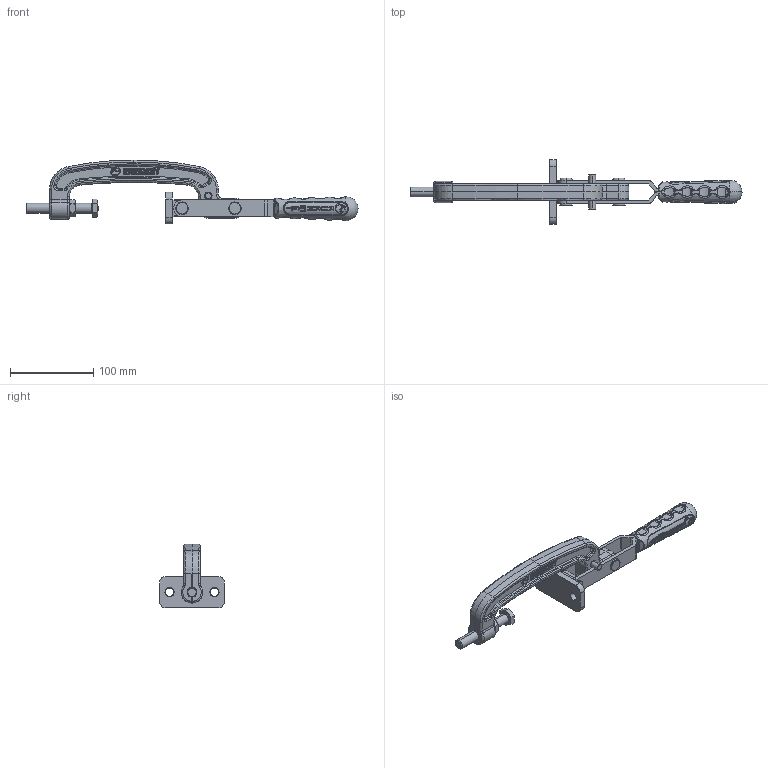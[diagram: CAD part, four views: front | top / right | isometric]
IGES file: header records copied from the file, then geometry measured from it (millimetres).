
Start section: 3D InterOp IGES (v. 2020 1.0.1), Spatial Corp. Copyright (c) 1999-2017.
Global section: file name: 811-3.igs; native system: Spatial Corp.; preprocessor: 3D InterOp ACIS/IGES; author: TraceParts; organization: TraceParts S.A.; date: 20231130.124321; units: millimetre
Bounding box: 399.33 x 78 x 76.95 mm (x, y, z)
Surface area: 77405.8 mm2 (no closed solid volume)
Topology: 0 solids, 0 shells, 3329 faces, 23159 edges, 23027 vertices
Faces by surface type: revolution 1627, extrusion 1107, bspline 595
